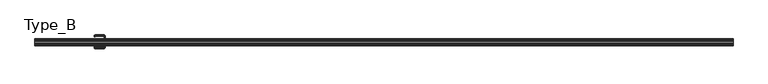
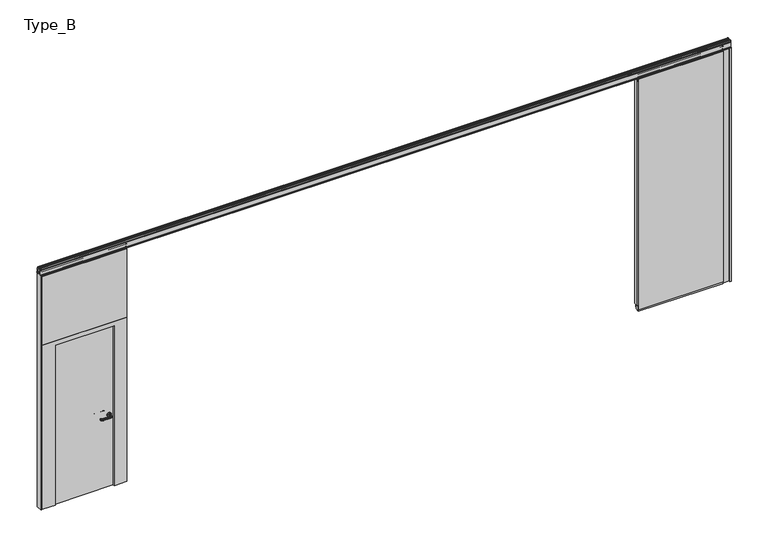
"""IFC4 building model written with IfcOpenShell, lengths in millimetres: proxy geometry, Planner Wall_ダブルガラス(Door) : Type_B."""

from ifc_helpers import new_model, si_unit, point, frame, frame_2d, origin, origin_with_axes, place, context, project, spatial, polyline, circle_curve, ellipse_curve, trimmed, segment, composite_curve, outline, extrude, faceted_brep, source, transform, mapped, element, save
from ifc_brep_helpers import plane_surface, cylinder_surface, revolved_surface, advanced_brep


def type_b_17a27512(model_context):
    return source(origin(), model_context, "Body", "SolidModel", [
        advanced_brep(
        [(836.125, 33.5, 930.0), (832.125, 33.5, 930.0), (827.125, 33.5, 925.0), (827.125, 33.5, 915.0477623), (832.125, 33.5, 910.0477623), (836.125, 33.5, 910.0477623), (841.125, 33.5, 915.0477623), (841.125, 33.5, 925.0), (841.125, 68.5, 925.0), (836.125, 68.5, 930.0), (841.125, 68.5, 915.0477623), (836.125, 68.5, 910.0477623), (832.125, 68.5, 910.0477623), (824.125, 76.5, 910.0477623), (724.125, 76.5, 910.0477623), (716.125, 68.5, 910.0477623), (716.125, 63.5, 910.0477623), (712.125, 63.5, 910.0477623), (712.125, 68.5, 910.0477623), (724.125, 80.5, 910.0477623), (824.125, 80.5, 910.0477623), (827.125, 68.5, 915.0477623), (827.125, 68.5, 925.0), (832.125, 68.5, 930.0), (824.125, 80.5, 930.0), (724.125, 80.5, 930.0), (712.125, 68.5, 930.0), (712.125, 63.5, 930.0), (716.125, 63.5, 930.0), (716.125, 68.5, 930.0), (724.125, 76.5, 930.0), (824.125, 76.5, 930.0), (824.125, 85.5, 925.0), (824.125, 85.5, 915.0477623), (824.125, 71.5, 915.0477623), (824.125, 71.5, 925.0), (724.125, 85.5, 925.0), (724.125, 85.5, 915.0477623), (724.125, 71.5, 915.0477623), (724.125, 71.5, 925.0), (707.125, 68.5, 925.0), (707.125, 68.5, 915.0477623), (721.125, 68.5, 915.0477623), (721.125, 68.5, 925.0), (707.125, 63.5, 925.0), (707.125, 63.5, 915.0477623), (721.125, 63.5, 915.0477623), (721.125, 63.5, 925.0)],
        [
            (0, 1),
            (1, 2, circle_curve(frame((832.125, 33.5, 925.0), z_axis=(0.0, -1.0, 0.0), x_axis=(1.0, 0.0, 0.0)), 5.0)),
            (2, 3),
            (3, 4, circle_curve(frame((832.125, 33.5, 915.0477623), z_axis=(0.0, -1.0, 0.0), x_axis=(1.0, 0.0, 0.0)), 5.0)),
            (4, 5),
            (5, 6, circle_curve(frame((836.125, 33.5, 915.0477623), z_axis=(0.0, -1.0, 0.0), x_axis=(1.0, 0.0, 0.0)), 5.0)),
            (6, 7),
            (7, 0, circle_curve(frame((836.125, 33.5, 925.0), z_axis=(0.0, -1.0, 0.0), x_axis=(1.0, 0.0, 0.0)), 5.0)),
            (7, 8),
            (8, 9, circle_curve(frame((836.125, 68.5, 925.0), z_axis=(0.0, -1.0, 0.0), x_axis=(1.0, 0.0, 0.0)), 5.0)),
            (9, 0),
            (6, 10),
            (10, 8),
            (5, 11),
            (11, 10, circle_curve(frame((836.125, 68.5, 915.0477623), z_axis=(0.0, -1.0, 0.0), x_axis=(1.0, 0.0, 0.0)), 5.0)),
            (4, 12),
            (12, 13, circle_curve(frame((824.125, 68.5, 910.0477623), z_axis=(0.0, 0.0, 1.0), x_axis=(1.0, 0.0, 0.0)), 8.0)),
            (13, 14),
            (14, 15, circle_curve(frame((724.125, 68.5, 910.0477623), z_axis=(0.0, 0.0, 1.0), x_axis=(0.0, 1.0, 0.0)), 8.0)),
            (15, 16),
            (16, 17),
            (17, 18),
            (18, 19, circle_curve(frame((724.125, 68.5, 910.0477623), z_axis=(0.0, 0.0, -1.0), x_axis=(0.0, 1.0, 0.0)), 12.0)),
            (19, 20),
            (20, 11, circle_curve(frame((824.125, 68.5, 910.0477623), z_axis=(0.0, 0.0, -1.0), x_axis=(1.0, 0.0, 0.0)), 12.0)),
            (3, 21),
            (21, 12, circle_curve(frame((832.125, 68.5, 915.0477623), z_axis=(0.0, -1.0, 0.0), x_axis=(1.0, 0.0, 0.0)), 5.0)),
            (2, 22),
            (22, 21),
            (1, 23),
            (23, 22, circle_curve(frame((832.125, 68.5, 925.0), z_axis=(0.0, -1.0, 0.0), x_axis=(1.0, 0.0, 0.0)), 5.0)),
            (9, 24, circle_curve(frame((824.125, 68.5, 930.0), z_axis=(0.0, 0.0, 1.0), x_axis=(1.0, 0.0, 0.0)), 12.0)),
            (24, 25),
            (25, 26, circle_curve(frame((724.125, 68.5, 930.0), z_axis=(0.0, 0.0, 1.0), x_axis=(0.0, 1.0, 0.0)), 12.0)),
            (26, 27),
            (27, 28),
            (28, 29),
            (29, 30, circle_curve(frame((724.125, 68.5, 930.0), z_axis=(0.0, 0.0, -1.0), x_axis=(0.0, 1.0, 0.0)), 8.0)),
            (30, 31),
            (31, 23, circle_curve(frame((824.125, 68.5, 930.0), z_axis=(0.0, 0.0, -1.0), x_axis=(1.0, 0.0, 0.0)), 8.0)),
            (32, 24, circle_curve(frame((824.125, 80.5, 925.0), z_axis=(1.0, 0.0, 0.0), x_axis=(0.0, 1.0, 0.0)), 5.0)),
            (8, 32, circle_curve(frame((824.125, 68.5, 925.0), z_axis=(0.0, 0.0, 1.0), x_axis=(1.0, 0.0, 0.0)), 17.0)),
            (33, 32),
            (10, 33, circle_curve(frame((824.125, 68.5, 915.0477623), z_axis=(0.0, 0.0, 1.0), x_axis=(1.0, 0.0, 0.0)), 17.0)),
            (20, 33, circle_curve(frame((824.125, 80.5, 915.0477623), z_axis=(1.0, 0.0, 0.0), x_axis=(0.0, 1.0, 0.0)), 5.0)),
            (34, 13, circle_curve(frame((824.125, 76.5, 915.0477623), z_axis=(1.0, 0.0, 0.0), x_axis=(0.0, 1.0, 0.0)), 5.0)),
            (21, 34, circle_curve(frame((824.125, 68.5, 915.0477623), z_axis=(0.0, 0.0, 1.0), x_axis=(1.0, 0.0, 0.0)), 3.0)),
            (35, 34),
            (22, 35, circle_curve(frame((824.125, 68.5, 925.0), z_axis=(0.0, 0.0, 1.0), x_axis=(1.0, 0.0, 0.0)), 3.0)),
            (31, 35, circle_curve(frame((824.125, 76.5, 925.0), z_axis=(1.0, 0.0, 0.0), x_axis=(0.0, 1.0, 0.0)), 5.0)),
            (32, 36),
            (36, 25, circle_curve(frame((724.125, 80.5, 925.0), z_axis=(1.0, 0.0, 0.0), x_axis=(0.0, 1.0, 0.0)), 5.0)),
            (33, 37),
            (37, 36),
            (19, 37, circle_curve(frame((724.125, 80.5, 915.0477623), z_axis=(1.0, 0.0, 0.0), x_axis=(0.0, 1.0, 0.0)), 5.0)),
            (34, 38),
            (38, 14, circle_curve(frame((724.125, 76.5, 915.0477623), z_axis=(1.0, 0.0, 0.0), x_axis=(0.0, 1.0, 0.0)), 5.0)),
            (35, 39),
            (39, 38),
            (30, 39, circle_curve(frame((724.125, 76.5, 925.0), z_axis=(1.0, 0.0, 0.0), x_axis=(0.0, 1.0, 0.0)), 5.0)),
            (40, 26, circle_curve(frame((712.125, 68.5, 925.0), z_axis=(0.0, 1.0, 0.0), x_axis=(-1.0, 0.0, 0.0)), 5.0)),
            (36, 40, circle_curve(frame((724.125, 68.5, 925.0), z_axis=(0.0, 0.0, 1.0), x_axis=(0.0, 1.0, 0.0)), 17.0)),
            (41, 40),
            (37, 41, circle_curve(frame((724.125, 68.5, 915.0477623), z_axis=(0.0, 0.0, 1.0), x_axis=(0.0, 1.0, 0.0)), 17.0)),
            (18, 41, circle_curve(frame((712.125, 68.5, 915.0477623), z_axis=(0.0, 1.0, 0.0), x_axis=(-1.0, 0.0, 0.0)), 5.0)),
            (42, 15, circle_curve(frame((716.125, 68.5, 915.0477623), z_axis=(0.0, 1.0, 0.0), x_axis=(-1.0, 0.0, 0.0)), 5.0)),
            (38, 42, circle_curve(frame((724.125, 68.5, 915.0477623), z_axis=(0.0, 0.0, 1.0), x_axis=(0.0, 1.0, 0.0)), 3.0)),
            (43, 42),
            (39, 43, circle_curve(frame((724.125, 68.5, 925.0), z_axis=(0.0, 0.0, 1.0), x_axis=(0.0, 1.0, 0.0)), 3.0)),
            (29, 43, circle_curve(frame((716.125, 68.5, 925.0), z_axis=(0.0, 1.0, 0.0), x_axis=(-1.0, 0.0, 0.0)), 5.0)),
            (27, 44, circle_curve(frame((712.125, 63.5, 925.0), z_axis=(0.0, -1.0, 0.0), x_axis=(-1.0, 0.0, 0.0)), 5.0)),
            (44, 45),
            (45, 17, circle_curve(frame((712.125, 63.5, 915.0477623), z_axis=(0.0, -1.0, 0.0), x_axis=(-1.0, 0.0, 0.0)), 5.0)),
            (16, 46, circle_curve(frame((716.125, 63.5, 915.0477623), z_axis=(0.0, -1.0, 0.0), x_axis=(-1.0, 0.0, 0.0)), 5.0)),
            (46, 47),
            (47, 28, circle_curve(frame((716.125, 63.5, 925.0), z_axis=(0.0, -1.0, 0.0), x_axis=(-1.0, 0.0, 0.0)), 5.0)),
            (40, 44),
            (41, 45),
            (42, 46),
            (43, 47),
        ],
        [
            plane_surface(frame((844.323039, 33.5, 920.0), z_axis=(0.0, -1.0, 0.0), x_axis=(0.0, 0.0, 1.0))),
            cylinder_surface(frame((836.125, 33.5, 925.0), z_axis=(0.0, -1.0, 0.0), x_axis=(1.0, 0.0, 0.0)), 5.0),
            plane_surface(frame((841.125, 33.5, 925.0), z_axis=(1.0, 0.0, 0.0), x_axis=(0.0, 1.0, 0.0))),
            cylinder_surface(frame((836.125, 33.5, 915.0477623), z_axis=(0.0, -1.0, 0.0), x_axis=(1.0, 0.0, 0.0)), 5.0),
            plane_surface(frame((836.125, 33.5, 910.0477623), z_axis=(0.0, 0.0, -1.0), x_axis=(0.0, 1.0, 0.0))),
            cylinder_surface(frame((832.125, 33.5, 915.0477623), z_axis=(0.0, -1.0, 0.0), x_axis=(1.0, 0.0, 0.0)), 5.0),
            plane_surface(frame((827.125, 33.5, 915.0477623), z_axis=(-1.0, 0.0, 0.0), x_axis=(0.0, 1.0, 0.0))),
            cylinder_surface(frame((832.125, 33.5, 925.0), z_axis=(0.0, -1.0, 0.0), x_axis=(1.0, 0.0, 0.0)), 5.0),
            plane_surface(frame((832.125, 33.5, 930.0), z_axis=(0.0, 0.0, 1.0), x_axis=(0.0, 1.0, 0.0))),
            revolved_surface(trimmed(ellipse_curve(frame((836.125, 68.5, 925.0), z_axis=(0.0, 1.0, 0.0), x_axis=(1.0, 0.0, 0.0)), 5.0, 5.0), [point((836.125, 68.5, 930.0))], [point((841.125, 68.5, 925.0))], True, "CARTESIAN"), (824.125, 68.5, 920.0), (0.0, 0.0, -1.0)),
            cylinder_surface(frame((824.125, 68.5, 920.0), z_axis=(0.0, 0.0, -1.0), x_axis=(1.0, 0.0, 0.0)), 17.0),
            revolved_surface(trimmed(ellipse_curve(frame((836.125, 68.5, 915.0477623), z_axis=(0.0, 1.0, 0.0), x_axis=(1.0, 0.0, 0.0)), 5.0, 5.0), [point((841.125, 68.5, 915.0477623))], [point((836.125, 68.5, 910.0477623))], True, "CARTESIAN"), (824.125, 68.5, 920.0), (0.0, 0.0, -1.0)),
            revolved_surface(trimmed(ellipse_curve(frame((832.125, 68.5, 915.0477623), z_axis=(0.0, 1.0, 0.0), x_axis=(1.0, 0.0, 0.0)), 5.0, 5.0), [point((832.125, 68.5, 910.0477623))], [point((827.125, 68.5, 915.0477623))], True, "CARTESIAN"), (824.125, 68.5, 920.0), (0.0, 0.0, -1.0)),
            revolved_surface(polyline([(827.125, 68.5, 915.0477623), (827.125, 68.5, 925.0)]), (824.125, 68.5, 920.0), (0.0, 0.0, -1.0)),
            revolved_surface(trimmed(ellipse_curve(frame((832.125, 68.5, 925.0), z_axis=(0.0, 1.0, 0.0), x_axis=(1.0, 0.0, 0.0)), 5.0, 5.0), [point((827.125, 68.5, 925.0))], [point((832.125, 68.5, 930.0))], True, "CARTESIAN"), (824.125, 68.5, 920.0), (0.0, 0.0, -1.0)),
            cylinder_surface(frame((824.125, 80.5, 925.0), z_axis=(1.0, 0.0, 0.0), x_axis=(0.0, 1.0, 0.0)), 5.0),
            plane_surface(frame((824.125, 85.5, 925.0), z_axis=(0.0, 1.0, 0.0), x_axis=(-1.0, 0.0, 0.0))),
            cylinder_surface(frame((824.125, 80.5, 915.0477623), z_axis=(1.0, 0.0, 0.0), x_axis=(0.0, 1.0, 0.0)), 5.0),
            cylinder_surface(frame((824.125, 76.5, 915.0477623), z_axis=(1.0, 0.0, 0.0), x_axis=(0.0, 1.0, 0.0)), 5.0),
            plane_surface(frame((824.125, 71.5, 915.0477623), z_axis=(0.0, -1.0, 0.0), x_axis=(-1.0, 0.0, 0.0))),
            cylinder_surface(frame((824.125, 76.5, 925.0), z_axis=(1.0, 0.0, 0.0), x_axis=(0.0, 1.0, 0.0)), 5.0),
            revolved_surface(trimmed(ellipse_curve(frame((724.125, 80.5, 925.0), z_axis=(-1.0, 0.0, 0.0), x_axis=(0.0, 1.0, 0.0)), 5.0, 5.0), [point((724.125, 80.5, 930.0))], [point((724.125, 85.5, 925.0))], True, "CARTESIAN"), (724.125, 68.5, 920.0), (0.0, 0.0, -1.0)),
            cylinder_surface(frame((724.125, 68.5, 920.0), z_axis=(0.0, 0.0, -1.0), x_axis=(0.0, 1.0, 0.0)), 17.0),
            revolved_surface(trimmed(ellipse_curve(frame((724.125, 80.5, 915.0477623), z_axis=(-1.0, 0.0, 0.0), x_axis=(0.0, 1.0, 0.0)), 5.0, 5.0), [point((724.125, 85.5, 915.0477623))], [point((724.125, 80.5, 910.0477623))], True, "CARTESIAN"), (724.125, 68.5, 920.0), (0.0, 0.0, -1.0)),
            revolved_surface(trimmed(ellipse_curve(frame((724.125, 76.5, 915.0477623), z_axis=(-1.0, 0.0, 0.0), x_axis=(0.0, 1.0, 0.0)), 5.0, 5.0), [point((724.125, 76.5, 910.0477623))], [point((724.125, 71.5, 915.0477623))], True, "CARTESIAN"), (724.125, 68.5, 920.0), (0.0, 0.0, -1.0)),
            revolved_surface(polyline([(724.125, 71.5, 915.0477623), (724.125, 71.5, 925.0)]), (724.125, 68.5, 920.0), (0.0, 0.0, -1.0)),
            revolved_surface(trimmed(ellipse_curve(frame((724.125, 76.5, 925.0), z_axis=(-1.0, 0.0, 0.0), x_axis=(0.0, 1.0, 0.0)), 5.0, 5.0), [point((724.125, 71.5, 925.0))], [point((724.125, 76.5, 930.0))], True, "CARTESIAN"), (724.125, 68.5, 920.0), (0.0, 0.0, -1.0)),
            plane_surface(frame((724.323039, 63.5, 920.0), z_axis=(0.0, -1.0, 0.0), x_axis=(0.0, 0.0, -1.0))),
            cylinder_surface(frame((712.125, 68.5, 925.0), z_axis=(0.0, 1.0, 0.0), x_axis=(-1.0, 0.0, 0.0)), 5.0),
            plane_surface(frame((707.125, 68.5, 925.0), z_axis=(-1.0, 0.0, 0.0), x_axis=(0.0, -1.0, 0.0))),
            cylinder_surface(frame((712.125, 68.5, 915.0477623), z_axis=(0.0, 1.0, 0.0), x_axis=(-1.0, 0.0, 0.0)), 5.0),
            cylinder_surface(frame((716.125, 68.5, 915.0477623), z_axis=(0.0, 1.0, 0.0), x_axis=(-1.0, 0.0, 0.0)), 5.0),
            plane_surface(frame((721.125, 68.5, 915.0477623), z_axis=(1.0, 0.0, 0.0), x_axis=(0.0, -1.0, 0.0))),
            cylinder_surface(frame((716.125, 68.5, 925.0), z_axis=(0.0, 1.0, 0.0), x_axis=(-1.0, 0.0, 0.0)), 5.0),
        ],
        [
            (0, [[1, 2, 3, 4, 5, 6, 7, 8]]),
            (1, [[9, 10, 11, -8]]),
            (2, [[12, 13, -9, -7]]),
            (3, [[14, 15, -12, -6]]),
            (4, [[16, 17, 18, 19, 20, 21, 22, 23, 24, 25, -14, -5]]),
            (5, [[26, 27, -16, -4]]),
            (6, [[28, 29, -26, -3]]),
            (7, [[30, 31, -28, -2]]),
            (8, [[-11, 32, 33, 34, 35, 36, 37, 38, 39, 40, -30, -1]]),
            (9, [[41, -32, -10, 42]]),
            (10, [[43, -42, -13, 44]]),
            (11, [[45, -44, -15, -25]]),
            (12, [[46, -17, -27, 47]]),
            (13, [[48, -47, -29, 49]]),
            (14, [[50, -49, -31, -40]]),
            (15, [[51, 52, -33, -41]]),
            (16, [[53, 54, -51, -43]]),
            (17, [[-24, 55, -53, -45]]),
            (18, [[56, 57, -18, -46]]),
            (19, [[58, 59, -56, -48]]),
            (20, [[-39, 60, -58, -50]]),
            (21, [[61, -34, -52, 62]]),
            (22, [[63, -62, -54, 64]]),
            (23, [[65, -64, -55, -23]]),
            (24, [[66, -19, -57, 67]]),
            (25, [[68, -67, -59, 69]]),
            (26, [[70, -69, -60, -38]]),
            (27, [[71, 72, 73, -21, 74, 75, 76, -36]]),
            (28, [[77, -71, -35, -61]]),
            (29, [[78, -72, -77, -63]]),
            (30, [[-22, -73, -78, -65]]),
            (31, [[79, -74, -20, -66]]),
            (32, [[80, -75, -79, -68]]),
            (33, [[-37, -76, -80, -70]]),
        ],
    ),
        advanced_brep(
        [(832.125, -26.5, 910.0), (827.125, -26.5, 915.0), (827.125, -26.5, 925.0), (832.125, -26.5, 930.0), (836.125, -26.5, 930.0), (841.125, -26.5, 925.0), (841.125, -26.5, 915.0), (836.125, -26.5, 910.0), (836.125, -61.5, 910.0), (824.125, -73.5, 910.0), (724.125, -73.5, 910.0), (712.125, -61.5, 910.0), (712.125, -56.5, 910.0), (716.125, -56.5, 910.0), (716.125, -61.5, 910.0), (724.125, -69.5, 910.0), (824.125, -69.5, 910.0), (832.125, -61.5, 910.0), (841.125, -61.5, 915.0), (841.125, -61.5, 925.0), (836.125, -61.5, 930.0), (832.125, -61.5, 930.0), (824.125, -69.5, 930.0), (724.125, -69.5, 930.0), (716.125, -61.5, 930.0), (716.125, -56.5, 930.0), (712.125, -56.5, 930.0), (712.125, -61.5, 930.0), (724.125, -73.5, 930.0), (824.125, -73.5, 930.0), (827.125, -61.5, 925.0), (827.125, -61.5, 915.0), (824.125, -78.5, 915.0), (824.125, -78.5, 925.0), (824.125, -64.5, 925.0), (824.125, -64.5, 915.0), (724.125, -78.5, 915.0), (724.125, -78.5, 925.0), (724.125, -64.5, 925.0), (724.125, -64.5, 915.0), (707.125, -61.5, 915.0), (707.125, -61.5, 925.0), (721.125, -61.5, 925.0), (721.125, -61.5, 915.0), (707.125, -56.5, 915.0), (707.125, -56.5, 925.0), (721.125, -56.5, 925.0), (721.125, -56.5, 915.0)],
        [
            (0, 1, circle_curve(frame((832.125, -26.5, 915.0), z_axis=(0.0, 1.0, 0.0), x_axis=(-1.0, 0.0, 0.0)), 5.0)),
            (1, 2),
            (2, 3, circle_curve(frame((832.125, -26.5, 925.0), z_axis=(0.0, 1.0, 0.0), x_axis=(-1.0, 0.0, 0.0)), 5.0)),
            (3, 4),
            (4, 5, circle_curve(frame((836.125, -26.5, 925.0), z_axis=(0.0, 1.0, 0.0), x_axis=(-1.0, 0.0, 0.0)), 5.0)),
            (5, 6),
            (6, 7, circle_curve(frame((836.125, -26.5, 915.0), z_axis=(0.0, 1.0, 0.0), x_axis=(-1.0, 0.0, 0.0)), 5.0)),
            (7, 0),
            (7, 8),
            (8, 9, circle_curve(frame((824.125, -61.5, 910.0), z_axis=(0.0, 0.0, -1.0), x_axis=(1.0, 0.0, 0.0)), 12.0)),
            (9, 10),
            (10, 11, circle_curve(frame((724.125, -61.5, 910.0), z_axis=(0.0, 0.0, -1.0), x_axis=(0.0, -1.0, 0.0)), 12.0)),
            (11, 12),
            (12, 13),
            (13, 14),
            (14, 15, circle_curve(frame((724.125, -61.5, 910.0), z_axis=(0.0, 0.0, 1.0), x_axis=(0.0, -1.0, 0.0)), 8.0)),
            (15, 16),
            (16, 17, circle_curve(frame((824.125, -61.5, 910.0), z_axis=(0.0, 0.0, 1.0), x_axis=(1.0, 0.0, 0.0)), 8.0)),
            (17, 0),
            (6, 18),
            (18, 8, circle_curve(frame((836.125, -61.5, 915.0), z_axis=(0.0, 1.0, 0.0), x_axis=(-1.0, 0.0, 0.0)), 5.0)),
            (5, 19),
            (19, 18),
            (4, 20),
            (20, 19, circle_curve(frame((836.125, -61.5, 925.0), z_axis=(0.0, 1.0, 0.0), x_axis=(-1.0, 0.0, 0.0)), 5.0)),
            (3, 21),
            (21, 22, circle_curve(frame((824.125, -61.5, 930.0), z_axis=(0.0, 0.0, -1.0), x_axis=(1.0, 0.0, 0.0)), 8.0)),
            (22, 23),
            (23, 24, circle_curve(frame((724.125, -61.5, 930.0), z_axis=(0.0, 0.0, -1.0), x_axis=(0.0, -1.0, 0.0)), 8.0)),
            (24, 25),
            (25, 26),
            (26, 27),
            (27, 28, circle_curve(frame((724.125, -61.5, 930.0), z_axis=(0.0, 0.0, 1.0), x_axis=(0.0, -1.0, 0.0)), 12.0)),
            (28, 29),
            (29, 20, circle_curve(frame((824.125, -61.5, 930.0), z_axis=(0.0, 0.0, 1.0), x_axis=(1.0, 0.0, 0.0)), 12.0)),
            (2, 30),
            (30, 21, circle_curve(frame((832.125, -61.5, 925.0), z_axis=(0.0, 1.0, 0.0), x_axis=(-1.0, 0.0, 0.0)), 5.0)),
            (1, 31),
            (31, 30),
            (17, 31, circle_curve(frame((832.125, -61.5, 915.0), z_axis=(0.0, 1.0, 0.0), x_axis=(-1.0, 0.0, 0.0)), 5.0)),
            (32, 9, circle_curve(frame((824.125, -73.5, 915.0), z_axis=(1.0, 0.0, 0.0), x_axis=(0.0, 1.0, 0.0)), 5.0)),
            (18, 32, circle_curve(frame((824.125, -61.5, 915.0), z_axis=(0.0, 0.0, -1.0), x_axis=(1.0, 0.0, 0.0)), 17.0)),
            (33, 32),
            (19, 33, circle_curve(frame((824.125, -61.5, 925.0), z_axis=(0.0, 0.0, -1.0), x_axis=(1.0, 0.0, 0.0)), 17.0)),
            (29, 33, circle_curve(frame((824.125, -73.5, 925.0), z_axis=(1.0, 0.0, 0.0), x_axis=(0.0, 1.0, 0.0)), 5.0)),
            (34, 22, circle_curve(frame((824.125, -69.5, 925.0), z_axis=(1.0, 0.0, 0.0), x_axis=(0.0, 1.0, 0.0)), 5.0)),
            (30, 34, circle_curve(frame((824.125, -61.5, 925.0), z_axis=(0.0, 0.0, -1.0), x_axis=(1.0, 0.0, 0.0)), 3.0)),
            (35, 34),
            (31, 35, circle_curve(frame((824.125, -61.5, 915.0), z_axis=(0.0, 0.0, -1.0), x_axis=(1.0, 0.0, 0.0)), 3.0)),
            (16, 35, circle_curve(frame((824.125, -69.5, 915.0), z_axis=(1.0, 0.0, 0.0), x_axis=(0.0, 1.0, 0.0)), 5.0)),
            (32, 36),
            (36, 10, circle_curve(frame((724.125, -73.5, 915.0), z_axis=(1.0, 0.0, 0.0), x_axis=(0.0, 1.0, 0.0)), 5.0)),
            (33, 37),
            (37, 36),
            (28, 37, circle_curve(frame((724.125, -73.5, 925.0), z_axis=(1.0, 0.0, 0.0), x_axis=(0.0, 1.0, 0.0)), 5.0)),
            (34, 38),
            (38, 23, circle_curve(frame((724.125, -69.5, 925.0), z_axis=(1.0, 0.0, 0.0), x_axis=(0.0, 1.0, 0.0)), 5.0)),
            (35, 39),
            (39, 38),
            (15, 39, circle_curve(frame((724.125, -69.5, 915.0), z_axis=(1.0, 0.0, 0.0), x_axis=(0.0, 1.0, 0.0)), 5.0)),
            (40, 11, circle_curve(frame((712.125, -61.5, 915.0), z_axis=(0.0, -1.0, 0.0), x_axis=(1.0, 0.0, 0.0)), 5.0)),
            (36, 40, circle_curve(frame((724.125, -61.5, 915.0), z_axis=(0.0, 0.0, -1.0), x_axis=(0.0, -1.0, 0.0)), 17.0)),
            (41, 40),
            (37, 41, circle_curve(frame((724.125, -61.5, 925.0), z_axis=(0.0, 0.0, -1.0), x_axis=(0.0, -1.0, 0.0)), 17.0)),
            (27, 41, circle_curve(frame((712.125, -61.5, 925.0), z_axis=(0.0, -1.0, 0.0), x_axis=(1.0, 0.0, 0.0)), 5.0)),
            (42, 24, circle_curve(frame((716.125, -61.5, 925.0), z_axis=(0.0, -1.0, 0.0), x_axis=(1.0, 0.0, 0.0)), 5.0)),
            (38, 42, circle_curve(frame((724.125, -61.5, 925.0), z_axis=(0.0, 0.0, -1.0), x_axis=(0.0, -1.0, 0.0)), 3.0)),
            (43, 42),
            (39, 43, circle_curve(frame((724.125, -61.5, 915.0), z_axis=(0.0, 0.0, -1.0), x_axis=(0.0, -1.0, 0.0)), 3.0)),
            (14, 43, circle_curve(frame((716.125, -61.5, 915.0), z_axis=(0.0, -1.0, 0.0), x_axis=(1.0, 0.0, 0.0)), 5.0)),
            (12, 44, circle_curve(frame((712.125, -56.5, 915.0), z_axis=(0.0, 1.0, 0.0), x_axis=(1.0, 0.0, 0.0)), 5.0)),
            (44, 45),
            (45, 26, circle_curve(frame((712.125, -56.5, 925.0), z_axis=(0.0, 1.0, 0.0), x_axis=(1.0, 0.0, 0.0)), 5.0)),
            (25, 46, circle_curve(frame((716.125, -56.5, 925.0), z_axis=(0.0, 1.0, 0.0), x_axis=(1.0, 0.0, 0.0)), 5.0)),
            (46, 47),
            (47, 13, circle_curve(frame((716.125, -56.5, 915.0), z_axis=(0.0, 1.0, 0.0), x_axis=(1.0, 0.0, 0.0)), 5.0)),
            (40, 44),
            (41, 45),
            (42, 46),
            (43, 47),
        ],
        [
            plane_surface(frame((844.323039, -26.5, 920.0), z_axis=(0.0, 1.0, 0.0), x_axis=(0.0, 0.0, -1.0))),
            plane_surface(frame((832.125, -26.5, 910.0), z_axis=(0.0, 0.0, -1.0), x_axis=(0.0, -1.0, 0.0))),
            cylinder_surface(frame((836.125, -26.5, 915.0), z_axis=(0.0, 1.0, 0.0), x_axis=(-1.0, 0.0, 0.0)), 5.0),
            plane_surface(frame((841.125, -26.5, 915.0), z_axis=(1.0, 0.0, 0.0), x_axis=(0.0, -1.0, 0.0))),
            cylinder_surface(frame((836.125, -26.5, 925.0), z_axis=(0.0, 1.0, 0.0), x_axis=(-1.0, 0.0, 0.0)), 5.0),
            plane_surface(frame((836.125, -26.5, 930.0), z_axis=(0.0, 0.0, 1.0), x_axis=(0.0, -1.0, 0.0))),
            cylinder_surface(frame((832.125, -26.5, 925.0), z_axis=(0.0, 1.0, 0.0), x_axis=(-1.0, 0.0, 0.0)), 5.0),
            plane_surface(frame((827.125, -26.5, 925.0), z_axis=(-1.0, 0.0, 0.0), x_axis=(0.0, -1.0, 0.0))),
            cylinder_surface(frame((832.125, -26.5, 915.0), z_axis=(0.0, 1.0, 0.0), x_axis=(-1.0, 0.0, 0.0)), 5.0),
            revolved_surface(trimmed(ellipse_curve(frame((836.125, -61.5, 915.0), z_axis=(0.0, -1.0, 0.0), x_axis=(-1.0, 0.0, 0.0)), 5.0, 5.0), [point((836.125, -61.5, 910.0))], [point((841.125, -61.5, 915.0))], True, "CARTESIAN"), (824.125, -61.5, 920.0), (0.0, 0.0, 1.0)),
            cylinder_surface(frame((824.125, -61.5, 920.0), z_axis=(0.0, 0.0, 1.0), x_axis=(1.0, 0.0, 0.0)), 17.0),
            revolved_surface(trimmed(ellipse_curve(frame((836.125, -61.5, 925.0), z_axis=(0.0, -1.0, 0.0), x_axis=(-1.0, 0.0, 0.0)), 5.0, 5.0), [point((841.125, -61.5, 925.0))], [point((836.125, -61.5, 930.0))], True, "CARTESIAN"), (824.125, -61.5, 920.0), (0.0, 0.0, 1.0)),
            revolved_surface(trimmed(ellipse_curve(frame((832.125, -61.5, 925.0), z_axis=(0.0, -1.0, 0.0), x_axis=(-1.0, 0.0, 0.0)), 5.0, 5.0), [point((832.125, -61.5, 930.0))], [point((827.125, -61.5, 925.0))], True, "CARTESIAN"), (824.125, -61.5, 920.0), (0.0, 0.0, 1.0)),
            revolved_surface(polyline([(827.125, -61.5, 925.0), (827.125, -61.5, 915.0)]), (824.125, -61.5, 920.0), (0.0, 0.0, 1.0)),
            revolved_surface(trimmed(ellipse_curve(frame((832.125, -61.5, 915.0), z_axis=(0.0, -1.0, 0.0), x_axis=(-1.0, 0.0, 0.0)), 5.0, 5.0), [point((827.125, -61.5, 915.0))], [point((832.125, -61.5, 910.0))], True, "CARTESIAN"), (824.125, -61.5, 920.0), (0.0, 0.0, 1.0)),
            cylinder_surface(frame((824.125, -73.5, 915.0), z_axis=(1.0, 0.0, 0.0), x_axis=(0.0, 1.0, 0.0)), 5.0),
            plane_surface(frame((824.125, -78.5, 915.0), z_axis=(0.0, -1.0, 0.0), x_axis=(-1.0, 0.0, 0.0))),
            cylinder_surface(frame((824.125, -73.5, 925.0), z_axis=(1.0, 0.0, 0.0), x_axis=(0.0, 1.0, 0.0)), 5.0),
            cylinder_surface(frame((824.125, -69.5, 925.0), z_axis=(1.0, 0.0, 0.0), x_axis=(0.0, 1.0, 0.0)), 5.0),
            plane_surface(frame((824.125, -64.5, 925.0), z_axis=(0.0, 1.0, 0.0), x_axis=(-1.0, 0.0, 0.0))),
            cylinder_surface(frame((824.125, -69.5, 915.0), z_axis=(1.0, 0.0, 0.0), x_axis=(0.0, 1.0, 0.0)), 5.0),
            revolved_surface(trimmed(ellipse_curve(frame((724.125, -73.5, 915.0), z_axis=(-1.0, 0.0, 0.0), x_axis=(0.0, 1.0, 0.0)), 5.0, 5.0), [point((724.125, -73.5, 910.0))], [point((724.125, -78.5, 915.0))], True, "CARTESIAN"), (724.125, -61.5, 920.0), (0.0, 0.0, 1.0)),
            cylinder_surface(frame((724.125, -61.5, 920.0), z_axis=(0.0, 0.0, 1.0), x_axis=(0.0, -1.0, 0.0)), 17.0),
            revolved_surface(trimmed(ellipse_curve(frame((724.125, -73.5, 925.0), z_axis=(-1.0, 0.0, 0.0), x_axis=(0.0, 1.0, 0.0)), 5.0, 5.0), [point((724.125, -78.5, 925.0))], [point((724.125, -73.5, 930.0))], True, "CARTESIAN"), (724.125, -61.5, 920.0), (0.0, 0.0, 1.0)),
            revolved_surface(trimmed(ellipse_curve(frame((724.125, -69.5, 925.0), z_axis=(-1.0, 0.0, 0.0), x_axis=(0.0, 1.0, 0.0)), 5.0, 5.0), [point((724.125, -69.5, 930.0))], [point((724.125, -64.5, 925.0))], True, "CARTESIAN"), (724.125, -61.5, 920.0), (0.0, 0.0, 1.0)),
            revolved_surface(polyline([(724.125, -64.5, 925.0), (724.125, -64.5, 915.0)]), (724.125, -61.5, 920.0), (0.0, 0.0, 1.0)),
            revolved_surface(trimmed(ellipse_curve(frame((724.125, -69.5, 915.0), z_axis=(-1.0, 0.0, 0.0), x_axis=(0.0, 1.0, 0.0)), 5.0, 5.0), [point((724.125, -64.5, 915.0))], [point((724.125, -69.5, 910.0))], True, "CARTESIAN"), (724.125, -61.5, 920.0), (0.0, 0.0, 1.0)),
            plane_surface(frame((724.323039, -56.5, 920.0), z_axis=(0.0, 1.0, 0.0), x_axis=(0.0, 0.0, 1.0))),
            cylinder_surface(frame((712.125, -61.5, 915.0), z_axis=(0.0, -1.0, 0.0), x_axis=(1.0, 0.0, 0.0)), 5.0),
            plane_surface(frame((707.125, -61.5, 915.0), z_axis=(-1.0, 0.0, 0.0), x_axis=(0.0, 1.0, 0.0))),
            cylinder_surface(frame((712.125, -61.5, 925.0), z_axis=(0.0, -1.0, 0.0), x_axis=(1.0, 0.0, 0.0)), 5.0),
            cylinder_surface(frame((716.125, -61.5, 925.0), z_axis=(0.0, -1.0, 0.0), x_axis=(1.0, 0.0, 0.0)), 5.0),
            plane_surface(frame((721.125, -61.5, 925.0), z_axis=(1.0, 0.0, 0.0), x_axis=(0.0, 1.0, 0.0))),
            cylinder_surface(frame((716.125, -61.5, 915.0), z_axis=(0.0, -1.0, 0.0), x_axis=(1.0, 0.0, 0.0)), 5.0),
        ],
        [
            (0, [[1, 2, 3, 4, 5, 6, 7, 8]]),
            (1, [[9, 10, 11, 12, 13, 14, 15, 16, 17, 18, 19, -8]]),
            (2, [[20, 21, -9, -7]]),
            (3, [[22, 23, -20, -6]]),
            (4, [[24, 25, -22, -5]]),
            (5, [[26, 27, 28, 29, 30, 31, 32, 33, 34, 35, -24, -4]]),
            (6, [[36, 37, -26, -3]]),
            (7, [[38, 39, -36, -2]]),
            (8, [[-19, 40, -38, -1]]),
            (9, [[41, -10, -21, 42]]),
            (10, [[43, -42, -23, 44]]),
            (11, [[45, -44, -25, -35]]),
            (12, [[46, -27, -37, 47]]),
            (13, [[48, -47, -39, 49]]),
            (14, [[50, -49, -40, -18]]),
            (15, [[51, 52, -11, -41]]),
            (16, [[53, 54, -51, -43]]),
            (17, [[-34, 55, -53, -45]]),
            (18, [[56, 57, -28, -46]]),
            (19, [[58, 59, -56, -48]]),
            (20, [[-17, 60, -58, -50]]),
            (21, [[61, -12, -52, 62]]),
            (22, [[63, -62, -54, 64]]),
            (23, [[65, -64, -55, -33]]),
            (24, [[66, -29, -57, 67]]),
            (25, [[68, -67, -59, 69]]),
            (26, [[70, -69, -60, -16]]),
            (27, [[-14, 71, 72, 73, -31, 74, 75, 76]]),
            (28, [[77, -71, -13, -61]]),
            (29, [[78, -72, -77, -63]]),
            (30, [[-32, -73, -78, -65]]),
            (31, [[79, -74, -30, -66]]),
            (32, [[80, -75, -79, -68]]),
            (33, [[-15, -76, -80, -70]]),
        ],
    ),
        extrude(outline(composite_curve([segment(trimmed(circle_curve(frame_2d((920.0, 834.125)), 25.0), [point((920.0, 859.125))], [point((920.0, 809.125))], False, "CARTESIAN"), True, "CONTINUOUS"), segment(trimmed(circle_curve(frame_2d((920.0, 834.125)), 25.0), [point((920.0, 809.125))], [point((920.0, 859.125))], False, "CARTESIAN"), True, "CONTINUOUS")], self_intersect=False)), frame((0.0, 23.5, 0.0), z_axis=(0.0, 1.0, 0.0), x_axis=(0.0, 0.0, 1.0)), (0.0, 0.0, 1.0), 10.0),
        extrude(outline(composite_curve([segment(trimmed(circle_curve(frame_2d((920.0, 834.125)), 25.0), [point((920.0, 859.125))], [point((920.0, 809.125))], False, "CARTESIAN"), True, "CONTINUOUS"), segment(trimmed(circle_curve(frame_2d((920.0, 834.125)), 25.0), [point((920.0, 809.125))], [point((920.0, 859.125))], False, "CARTESIAN"), True, "CONTINUOUS")], self_intersect=False)), frame((0.0, -26.5, 0.0), z_axis=(0.0, 1.0, 0.0), x_axis=(0.0, 0.0, 1.0)), (0.0, 0.0, 1.0), 10.0),
        extrude(outline(polyline([(898.125, -16.5), (166.5, -16.5), (166.5, 23.5), (898.125, 23.5), (898.125, -16.5)])), origin_with_axes(), (0.0, 0.0, 1.0), 2062.0),
        faceted_brep([(21.5, -35.0, 0.0), (21.5, 35.0, 0.0), (154.0, 35.0, 0.0), (154.0, 26.0, 0.0), (162.5, 26.0, 0.0), (162.5, -20.5, 0.0), (177.5, -20.5, 0.0), (177.5, -35.0, 0.0), (911.625, 35.0, 0.0), (1044.125, 35.0, 0.0), (1044.125, 25.0, 0.0), (1038.625, 25.0, 0.0), (1038.625, -25.0, 0.0), (1044.125, -25.0, 0.0), (1044.125, -35.0, 0.0), (888.125, -35.0, 0.0), (888.125, -20.5, 0.0), (903.125, -20.5, 0.0), (903.125, 26.0, 0.0), (911.625, 26.0, 0.0), (21.5, 35.0, 2100.0), (21.5, -35.0, 2100.0), (1044.125, -35.0, 2100.0), (1044.125, -25.0, 2100.0), (1038.625, -25.0, 2100.0), (1038.625, 25.0, 2100.0), (1044.125, 25.0, 2100.0), (1044.125, 35.0, 2100.0), (177.5, -20.5, 2100.0), (162.5, -20.5, 2100.0), (162.5, 25.0, 2100.0), (903.125, 25.0, 2100.0), (903.125, -20.5, 2100.0), (888.125, -20.5, 2100.0), (888.125, -25.0, 2100.0), (177.5, -25.0, 2100.0), (911.625, 35.0, 2066.0), (154.0, 35.0, 2066.0), (154.0, 26.0, 2066.0), (162.5, 26.0, 2066.0), (162.5, 25.0, 2066.0), (177.5, -25.0, 2046.0), (177.5, -35.0, 2046.0), (888.125, -35.0, 2046.0), (888.125, -25.0, 2046.0), (903.125, 25.0, 2066.0), (903.125, 26.0, 2066.0), (911.625, 26.0, 2066.0)], [[[0, 1, 2, 3, 4, 5, 6, 7]], [[8, 9, 10, 11, 12, 13, 14, 15, 16, 17, 18, 19]], [[20, 21, 22, 23, 24, 25, 26, 27], [28, 29, 30, 31, 32, 33, 34, 35]], [[1, 0, 21, 20]], [[2, 1, 20, 27, 9, 8, 36, 37]], [[3, 2, 37, 38]], [[4, 3, 38, 39]], [[5, 4, 39, 40, 30, 29]], [[6, 5, 29, 28]], [[7, 6, 28, 35, 41, 42]], [[0, 7, 42, 43, 15, 14, 22, 21]], [[10, 9, 27, 26]], [[11, 10, 26, 25]], [[12, 11, 25, 24]], [[13, 12, 24, 23]], [[14, 13, 23, 22]], [[16, 15, 43, 44, 34, 33]], [[17, 16, 33, 32]], [[18, 17, 32, 31, 45, 46]], [[19, 18, 46, 47]], [[8, 19, 47, 36]], [[43, 42, 41, 44]], [[35, 34, 44, 41]], [[31, 30, 40, 45]], [[37, 36, 47, 46, 45, 40, 39, 38]]]),
        extrude(outline(composite_curve([segment(polyline([(23.5, 3050.1000003), (26.5, 3047.1000003), (26.5, 3032.6)]), True, "CONTINUOUS"), segment(trimmed(circle_curve(frame_2d((25.0, 3032.6)), 1.5), [point((26.5, 3032.6))], [point((25.0, 3031.1))], False, "CARTESIAN"), True, "CONTINUOUS"), segment(polyline([(25.0, 3031.1), (9.0, 3031.1), (9.0, 3019.1000003), (23.5, 3019.1000003), (26.5, 3016.1000003), (26.5, 3001.5)]), True, "CONTINUOUS"), segment(trimmed(circle_curve(frame_2d((25.0, 3001.5)), 1.5), [point((26.5, 3001.5))], [point((25.0, 3000.0))], False, "CARTESIAN"), True, "CONTINUOUS"), segment(polyline([(25.0, 3000.0), (7.5, 3000.0), (7.5, 2994.5), (25.0, 2994.5), (25.0, 2935.0), (-25.0, 2935.0), (-25.0, 2994.5), (-7.5, 2994.5), (-7.5, 3000.0), (-25.0, 3000.0)]), True, "CONTINUOUS"), segment(trimmed(circle_curve(frame_2d((-25.0, 3001.5)), 1.5), [point((-25.0, 3000.0))], [point((-26.5, 3001.5))], False, "CARTESIAN"), True, "CONTINUOUS"), segment(polyline([(-26.5, 3001.5), (-26.5, 3016.1000003), (-23.5, 3019.1000003), (-9.0, 3019.1000003), (-9.0, 3031.1), (-25.0, 3031.1)]), True, "CONTINUOUS"), segment(trimmed(circle_curve(frame_2d((-25.0, 3032.6)), 1.5), [point((-25.0, 3031.1))], [point((-26.5, 3032.6))], False, "CARTESIAN"), True, "CONTINUOUS"), segment(polyline([(-26.5, 3032.6), (-26.5, 3047.1000003), (-23.5, 3050.1000003), (23.5, 3050.1000003)]), True, "CONTINUOUS")], self_intersect=False)), frame((21.5, 0.0, 0.0), z_axis=(1.0, 0.0, 0.0), x_axis=(0.0, 1.0, 0.0)), (0.0, 0.0, 1.0), 1022.625),
        extrude(outline(polyline([(1044.125, 24.9), (21.5, 24.9), (21.5, 35.0), (1044.125, 35.0), (1044.125, 24.9)])), frame((0.0, 0.0, 2100.0), z_axis=(0.0, 0.0, 1.0), x_axis=(1.0, 0.0, 0.0)), (0.0, 0.0, 1.0), 875.0),
        extrude(outline(polyline([(1044.125, -35.0), (21.5, -35.0), (21.5, -24.9), (1044.125, -24.9), (1044.125, -35.0)])), frame((0.0, 0.0, 2100.0), z_axis=(0.0, 0.0, 1.0), x_axis=(1.0, 0.0, 0.0)), (0.0, 0.0, 1.0), 875.0),
        extrude(outline(polyline([(8.0, -25.0), (8.0, 25.0), (21.5, 25.0), (21.5, -25.0), (8.0, -25.0)])), frame((0.0, 0.0, 53.0), z_axis=(0.0, 0.0, 1.0), x_axis=(1.0, 0.0, 0.0)), (0.0, 0.0, 1.0), 2869.0),
        extrude(outline(polyline([(7235.875, -25.0), (7235.875, 25.0), (8253.0, 25.0), (8253.0, -25.0), (7235.875, -25.0)])), origin_with_axes(), (0.0, 0.0, 1.0), 65.0),
        extrude(outline(polyline([(8253.0, -19.5), (8253.0, 19.5), (8335.5, 19.5), (8335.5, 25.0), (8342.0, 25.0), (8342.0, -25.0), (8335.5, -25.0), (8335.5, -19.5), (8253.0, -19.5)])), origin_with_axes(), (0.0, 0.0, 1.0), 2994.0),
        extrude(outline(composite_curve([segment(polyline([(23.5, 3050.1000003), (26.5, 3047.1000003), (26.5, 3032.6)]), True, "CONTINUOUS"), segment(trimmed(circle_curve(frame_2d((25.0, 3032.6)), 1.5), [point((26.5, 3032.6))], [point((25.0, 3031.1))], False, "CARTESIAN"), True, "CONTINUOUS"), segment(polyline([(25.0, 3031.1), (9.0, 3031.1), (9.0, 3019.1000003), (23.5, 3019.1000003), (26.5, 3016.1000003), (26.5, 3001.5)]), True, "CONTINUOUS"), segment(trimmed(circle_curve(frame_2d((25.0, 3001.5)), 1.5), [point((26.5, 3001.5))], [point((25.0, 3000.0))], False, "CARTESIAN"), True, "CONTINUOUS"), segment(polyline([(25.0, 3000.0), (7.5, 3000.0), (7.5, 2994.5), (25.0, 2994.5), (25.0, 2935.0), (-25.0, 2935.0), (-25.0, 2994.5), (-7.5, 2994.5), (-7.5, 3000.0), (-25.0, 3000.0)]), True, "CONTINUOUS"), segment(trimmed(circle_curve(frame_2d((-25.0, 3001.5)), 1.5), [point((-25.0, 3000.0))], [point((-26.5, 3001.5))], False, "CARTESIAN"), True, "CONTINUOUS"), segment(polyline([(-26.5, 3001.5), (-26.5, 3016.1000003), (-23.5, 3019.1000003), (-9.0, 3019.1000003), (-9.0, 3031.1), (-25.0, 3031.1)]), True, "CONTINUOUS"), segment(trimmed(circle_curve(frame_2d((-25.0, 3032.6)), 1.5), [point((-25.0, 3031.1))], [point((-26.5, 3032.6))], False, "CARTESIAN"), True, "CONTINUOUS"), segment(polyline([(-26.5, 3032.6), (-26.5, 3047.1000003), (-23.5, 3050.1000003), (23.5, 3050.1000003)]), True, "CONTINUOUS")], self_intersect=False)), frame((7235.875, 0.0, 0.0), z_axis=(1.0, 0.0, 0.0), x_axis=(0.0, 1.0, 0.0)), (0.0, 0.0, 1.0), 1022.625),
        extrude(outline(polyline([(8258.5, 24.9), (7235.875, 24.9), (7235.875, 35.0), (8258.5, 35.0), (8258.5, 24.9)])), frame((0.0, 0.0, 25.0), z_axis=(0.0, 0.0, 1.0), x_axis=(1.0, 0.0, 0.0)), (0.0, 0.0, 1.0), 2950.0),
        extrude(outline(polyline([(8258.5, -35.0), (7235.875, -35.0), (7235.875, -24.9), (8258.5, -24.9), (8258.5, -35.0)])), frame((0.0, 0.0, 25.0), z_axis=(0.0, 0.0, 1.0), x_axis=(1.0, 0.0, 0.0)), (0.0, 0.0, 1.0), 2950.0),
        extrude(outline(polyline([(7222.375, -25.0), (7222.375, 25.0), (7235.875, 25.0), (7235.875, -25.0), (7222.375, -25.0)])), frame((0.0, 0.0, 78.0), z_axis=(0.0, 0.0, 1.0), x_axis=(1.0, 0.0, 0.0)), (0.0, 0.0, 1.0), 2897.0),
        extrude(outline(polyline([(0.0, -35.0), (0.0, 35.0), (13.5, 35.0), (13.5, 25.0), (8.0, 25.0), (8.0, -25.0), (13.5, -25.0), (13.5, -35.0), (0.0, -35.0)])), origin_with_axes(), (0.0, 0.0, 1.0), 2994.0),
        extrude(outline(composite_curve([segment(trimmed(circle_curve(frame_2d((-26.5, 3056.0)), 5.0), [point((-31.5, 3056.0))], [point((-26.1165175, 3060.9852724))], False, "CARTESIAN"), True, "CONTINUOUS"), segment(polyline([(-26.1165175, 3060.9852724), (-24.5, 3060.9852724), (-24.5, 3075.0)]), True, "CONTINUOUS"), segment(trimmed(circle_curve(frame_2d((-21.5, 3075.0)), 3.0), [point((-24.5, 3075.0))], [point((-21.5, 3078.0))], False, "CARTESIAN"), True, "CONTINUOUS"), segment(polyline([(-21.5, 3078.0), (-14.0, 3078.0)]), True, "CONTINUOUS"), segment(trimmed(circle_curve(frame_2d((-14.0, 3076.5)), 1.5), [point((-14.0, 3078.0))], [point((-12.5, 3076.5))], False, "CARTESIAN"), True, "CONTINUOUS"), segment(polyline([(-12.5, 3076.5), (-12.5, 3074.5)]), True, "CONTINUOUS"), segment(trimmed(circle_curve(frame_2d((-13.0, 3074.5)), 0.5), [point((-12.5, 3074.5))], [point((-13.0, 3074.0))], False, "CARTESIAN"), True, "CONTINUOUS"), segment(polyline([(-13.0, 3074.0), (-19.0, 3074.0)]), True, "CONTINUOUS"), segment(trimmed(circle_curve(frame_2d((-19.0, 3072.5)), 1.5), [point((-19.0, 3074.0))], [point((-20.5, 3072.5))], True, "CARTESIAN"), True, "CONTINUOUS"), segment(polyline([(-20.5, 3072.5), (-20.5, 3062.5)]), True, "CONTINUOUS"), segment(trimmed(circle_curve(frame_2d((-19.0, 3062.5)), 1.5), [point((-20.5, 3062.5))], [point((-19.0, 3061.0))], True, "CARTESIAN"), True, "CONTINUOUS"), segment(polyline([(-19.0, 3061.0), (19.0, 3061.0)]), True, "CONTINUOUS"), segment(trimmed(circle_curve(frame_2d((19.0, 3062.5)), 1.5), [point((19.0, 3061.0))], [point((20.5, 3062.5))], True, "CARTESIAN"), True, "CONTINUOUS"), segment(polyline([(20.5, 3062.5), (20.5, 3072.5)]), True, "CONTINUOUS"), segment(trimmed(circle_curve(frame_2d((19.0, 3072.5)), 1.5), [point((20.5, 3072.5))], [point((19.0, 3074.0))], True, "CARTESIAN"), True, "CONTINUOUS"), segment(polyline([(19.0, 3074.0), (13.0, 3074.0)]), True, "CONTINUOUS"), segment(trimmed(circle_curve(frame_2d((13.0, 3074.5)), 0.5), [point((13.0, 3074.0))], [point((12.5, 3074.5))], False, "CARTESIAN"), True, "CONTINUOUS"), segment(polyline([(12.5, 3074.5), (12.5, 3076.5)]), True, "CONTINUOUS"), segment(trimmed(circle_curve(frame_2d((14.0, 3076.5)), 1.5), [point((12.5, 3076.5))], [point((14.0, 3078.0))], False, "CARTESIAN"), True, "CONTINUOUS"), segment(polyline([(14.0, 3078.0), (21.5, 3078.0)]), True, "CONTINUOUS"), segment(trimmed(circle_curve(frame_2d((21.5, 3075.0)), 3.0), [point((21.5, 3078.0))], [point((24.5, 3075.0))], False, "CARTESIAN"), True, "CONTINUOUS"), segment(polyline([(24.5, 3075.0), (24.5, 3060.9852724), (26.1165175, 3060.9852724)]), True, "CONTINUOUS"), segment(trimmed(circle_curve(frame_2d((26.5, 3056.0)), 5.0), [point((26.1165175, 3060.9852724))], [point((31.5, 3056.0))], False, "CARTESIAN"), True, "CONTINUOUS"), segment(polyline([(31.5, 3056.0), (31.5, 3000.0), (42.5, 3000.0), (42.5, 2994.0), (11.0, 2994.0), (11.0, 3000.0), (26.9, 3000.0), (26.9, 3007.0786797), (27.9, 3009.3213203), (27.9, 3052.0)]), True, "CONTINUOUS"), segment(trimmed(circle_curve(frame_2d((22.9, 3052.0)), 5.0), [point((27.9, 3052.0))], [point((22.9, 3057.0))], True, "CARTESIAN"), True, "CONTINUOUS"), segment(polyline([(22.9, 3057.0), (-22.9, 3057.0)]), True, "CONTINUOUS"), segment(trimmed(circle_curve(frame_2d((-22.9, 3052.0)), 5.0), [point((-22.9, 3057.0))], [point((-27.9, 3052.0))], True, "CARTESIAN"), True, "CONTINUOUS"), segment(polyline([(-27.9, 3052.0), (-27.9, 3009.3213203), (-26.9, 3007.0786797), (-26.9, 3000.0), (-11.0, 3000.0), (-11.0, 2994.0), (-42.5, 2994.0), (-42.5, 3000.0), (-31.5, 3000.0), (-31.5, 3056.0)]), True, "CONTINUOUS")], self_intersect=False)), frame((0.0, 0.0, 0.0), z_axis=(1.0, 0.0, 0.0), x_axis=(0.0, 1.0, 0.0)), (0.0, 0.0, 1.0), 8350.0),
        extrude(outline(polyline([(8350.0, -35.0), (8336.5, -35.0), (8336.5, -25.0), (8342.0, -25.0), (8342.0, 25.0), (8336.5, 25.0), (8336.5, 35.0), (8350.0, 35.0), (8350.0, -35.0)])), origin_with_axes(), (0.0, 0.0, 1.0), 2994.0),
        extrude(outline(polyline([(0.0, -35.0), (0.0, 35.0), (13.5, 35.0), (13.5, 25.0), (8.0, 25.0), (8.0, -25.0), (13.5, -25.0), (13.5, -35.0), (0.0, -35.0)])), origin_with_axes(), (0.0, 0.0, 1.0), 2994.0),
    ])


if __name__ == "__main__":
    model = new_model("IFC4")
    model_context = context("Model", 3, world=origin())
    ifc_project = project(units=[si_unit("LENGTHUNIT", "METRE", prefix="MILLI")], contexts=[model_context])
    site = spatial("IfcSite", under=ifc_project)
    building = spatial("IfcBuilding", under=site)
    placement = place(None, origin())
    type_b_shape = type_b_17a27512(model_context)
    element("IfcBuildingElementProxy", 1, Name="Planner Wall_ダブルガラス(Door) : Type_B", ObjectType="Planner Wall_ダブルガラス(Door) : Type_B", at=placement, inside=building, context=model_context, shape_type="MappedRepresentation", body=[
        mapped(type_b_shape, transform((0.0, 0.0, 0.0), x_axis=(1.0, 0.0, 0.0), y_axis=(0.0, 1.0, 0.0), z_axis=(0.0, 0.0, 1.0))),
    ])
    save(model, "model.ifc")
